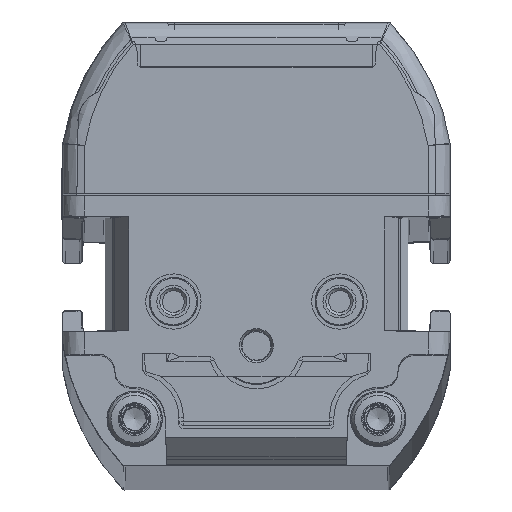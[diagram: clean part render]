
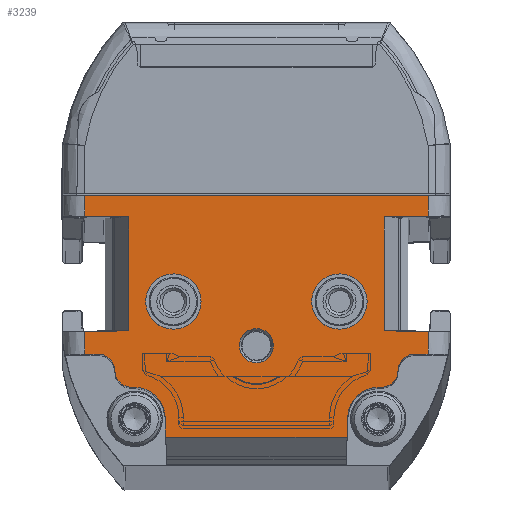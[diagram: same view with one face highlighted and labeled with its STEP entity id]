
A CAD part, top view. The second image highlights one B-rep face of the part: STEP entity #3239.
In plain terms, the highlighted planar face has unit normal (0, 0, 1).
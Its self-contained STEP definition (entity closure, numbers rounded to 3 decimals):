
#1178=FACE_BOUND('',#5343,.T.);
#1179=FACE_BOUND('',#5344,.T.);
#1180=FACE_BOUND('',#5345,.T.);
#1181=FACE_BOUND('',#5346,.T.);
#1900=CIRCLE('',#17502,2.5);
#1901=CIRCLE('',#17504,2.5);
#1902=CIRCLE('',#17506,1.55);
#1905=CIRCLE('',#17576,1.5);
#1906=CIRCLE('',#17577,1.5);
#1907=CIRCLE('',#17578,1.5);
#1908=CIRCLE('',#17579,1.5);
#1909=CIRCLE('',#17580,2.75);
#1910=CIRCLE('',#17581,2.75);
#3239=ADVANCED_FACE('',(#1178,#1179,#1180,#1181),#3754,.T.);
#3754=PLANE('',#17582);
#5343=EDGE_LOOP('',(#9281));
#5344=EDGE_LOOP('',(#9282));
#5345=EDGE_LOOP('',(#9283));
#5346=EDGE_LOOP('',(#9284,#9285,#9286,#9287,#9288,#9289,#9290,#9291,#9292,
#9293,#9294,#9295,#9296,#9297,#9298,#9299,#9300,#9301,#9302,#9303,#9304,
#9305,#9306,#9307,#9308,#9309));
#9281=ORIENTED_EDGE('',*,*,#13579,.T.);
#9282=ORIENTED_EDGE('',*,*,#13578,.F.);
#9283=ORIENTED_EDGE('',*,*,#13577,.F.);
#9284=ORIENTED_EDGE('',*,*,#13699,.F.);
#9285=ORIENTED_EDGE('',*,*,#13700,.T.);
#9286=ORIENTED_EDGE('',*,*,#13701,.T.);
#9287=ORIENTED_EDGE('',*,*,#13702,.T.);
#9288=ORIENTED_EDGE('',*,*,#13630,.T.);
#9289=ORIENTED_EDGE('',*,*,#13576,.T.);
#9290=ORIENTED_EDGE('',*,*,#13573,.T.);
#9291=ORIENTED_EDGE('',*,*,#13572,.T.);
#9292=ORIENTED_EDGE('',*,*,#13698,.T.);
#9293=ORIENTED_EDGE('',*,*,#13703,.F.);
#9294=ORIENTED_EDGE('',*,*,#13704,.F.);
#9295=ORIENTED_EDGE('',*,*,#13705,.F.);
#9296=ORIENTED_EDGE('',*,*,#13692,.T.);
#9297=ORIENTED_EDGE('',*,*,#13568,.F.);
#9298=ORIENTED_EDGE('',*,*,#13564,.T.);
#9299=ORIENTED_EDGE('',*,*,#13563,.F.);
#9300=ORIENTED_EDGE('',*,*,#13603,.T.);
#9301=ORIENTED_EDGE('',*,*,#13706,.F.);
#9302=ORIENTED_EDGE('',*,*,#13707,.T.);
#9303=ORIENTED_EDGE('',*,*,#13708,.T.);
#9304=ORIENTED_EDGE('',*,*,#13709,.F.);
#9305=ORIENTED_EDGE('',*,*,#13710,.F.);
#9306=ORIENTED_EDGE('',*,*,#13711,.F.);
#9307=ORIENTED_EDGE('',*,*,#13611,.T.);
#9308=ORIENTED_EDGE('',*,*,#13712,.F.);
#9309=ORIENTED_EDGE('',*,*,#13713,.F.);
#11499=VERTEX_POINT('',#29891);
#11500=VERTEX_POINT('',#29893);
#11501=VERTEX_POINT('',#29897);
#11502=VERTEX_POINT('',#29901);
#11504=VERTEX_POINT('',#29907);
#11506=VERTEX_POINT('',#29911);
#11507=VERTEX_POINT('',#29915);
#11508=VERTEX_POINT('',#29919);
#11509=VERTEX_POINT('',#29923);
#11510=VERTEX_POINT('',#29926);
#11511=VERTEX_POINT('',#29929);
#11528=VERTEX_POINT('',#30023);
#11533=VERTEX_POINT('',#30037);
#11534=VERTEX_POINT('',#30039);
#11547=VERTEX_POINT('',#30079);
#11581=VERTEX_POINT('',#30332);
#11585=VERTEX_POINT('',#30342);
#11586=VERTEX_POINT('',#30346);
#11587=VERTEX_POINT('',#30347);
#11588=VERTEX_POINT('',#30349);
#11589=VERTEX_POINT('',#30351);
#11590=VERTEX_POINT('',#30354);
#11591=VERTEX_POINT('',#30356);
#11592=VERTEX_POINT('',#30359);
#11593=VERTEX_POINT('',#30361);
#11594=VERTEX_POINT('',#30363);
#11595=VERTEX_POINT('',#30365);
#11596=VERTEX_POINT('',#30367);
#11597=VERTEX_POINT('',#30370);
#13563=EDGE_CURVE('',#11500,#11499,#15088,.T.);
#13564=EDGE_CURVE('',#11501,#11499,#15089,.T.);
#13568=EDGE_CURVE('',#11501,#11502,#15092,.T.);
#13572=EDGE_CURVE('',#11504,#11506,#15095,.T.);
#13573=EDGE_CURVE('',#11507,#11504,#15096,.T.);
#13576=EDGE_CURVE('',#11508,#11507,#15098,.T.);
#13577=EDGE_CURVE('',#11509,#11509,#1900,.T.);
#13578=EDGE_CURVE('',#11510,#11510,#1901,.T.);
#13579=EDGE_CURVE('',#11511,#11511,#1902,.T.);
#13603=EDGE_CURVE('',#11500,#11528,#15113,.T.);
#13611=EDGE_CURVE('',#11533,#11534,#15119,.T.);
#13630=EDGE_CURVE('',#11547,#11508,#15132,.T.);
#13692=EDGE_CURVE('',#11581,#11502,#15175,.T.);
#13698=EDGE_CURVE('',#11506,#11585,#15177,.T.);
#13699=EDGE_CURVE('',#11586,#11587,#15178,.T.);
#13700=EDGE_CURVE('',#11586,#11588,#1905,.T.);
#13701=EDGE_CURVE('',#11588,#11589,#1906,.T.);
#13702=EDGE_CURVE('',#11589,#11547,#15179,.T.);
#13703=EDGE_CURVE('',#11590,#11585,#15180,.T.);
#13704=EDGE_CURVE('',#11591,#11590,#15181,.T.);
#13705=EDGE_CURVE('',#11581,#11591,#15182,.T.);
#13706=EDGE_CURVE('',#11592,#11528,#15183,.T.);
#13707=EDGE_CURVE('',#11592,#11593,#1907,.T.);
#13708=EDGE_CURVE('',#11593,#11594,#1908,.T.);
#13709=EDGE_CURVE('',#11595,#11594,#15184,.T.);
#13710=EDGE_CURVE('',#11596,#11595,#1909,.T.);
#13711=EDGE_CURVE('',#11533,#11596,#15185,.T.);
#13712=EDGE_CURVE('',#11597,#11534,#15186,.T.);
#13713=EDGE_CURVE('',#11587,#11597,#1910,.T.);
#15088=LINE('',#29894,#16251);
#15089=LINE('',#29896,#16252);
#15092=LINE('',#29904,#16255);
#15095=LINE('',#29912,#16258);
#15096=LINE('',#29914,#16259);
#15098=LINE('',#29920,#16261);
#15113=LINE('',#30024,#16276);
#15119=LINE('',#30040,#16282);
#15132=LINE('',#30078,#16295);
#15175=LINE('',#30331,#16338);
#15177=LINE('',#30343,#16340);
#15178=LINE('',#30345,#16341);
#15179=LINE('',#30352,#16342);
#15180=LINE('',#30353,#16343);
#15181=LINE('',#30355,#16344);
#15182=LINE('',#30357,#16345);
#15183=LINE('',#30358,#16346);
#15184=LINE('',#30364,#16347);
#15185=LINE('',#30368,#16348);
#15186=LINE('',#30369,#16349);
#16251=VECTOR('',#20699,1.);
#16252=VECTOR('',#20702,1.);
#16255=VECTOR('',#20709,1.);
#16258=VECTOR('',#20716,1.);
#16259=VECTOR('',#20719,1.);
#16261=VECTOR('',#20725,1.);
#16276=VECTOR('',#20776,1.);
#16282=VECTOR('',#20790,1.);
#16295=VECTOR('',#20829,1.);
#16338=VECTOR('',#20940,1.);
#16340=VECTOR('',#20952,1.);
#16341=VECTOR('',#20955,1.);
#16342=VECTOR('',#20960,1.);
#16343=VECTOR('',#20961,1.);
#16344=VECTOR('',#20962,1.);
#16345=VECTOR('',#20963,1.);
#16346=VECTOR('',#20964,1.);
#16347=VECTOR('',#20969,1.);
#16348=VECTOR('',#20972,1.);
#16349=VECTOR('',#20973,1.);
#17502=AXIS2_PLACEMENT_3D('',#29922,#20728,#20729);
#17504=AXIS2_PLACEMENT_3D('',#29925,#20732,#20733);
#17506=AXIS2_PLACEMENT_3D('',#29928,#20736,#20737);
#17576=AXIS2_PLACEMENT_3D('',#30348,#20956,#20957);
#17577=AXIS2_PLACEMENT_3D('',#30350,#20958,#20959);
#17578=AXIS2_PLACEMENT_3D('',#30360,#20965,#20966);
#17579=AXIS2_PLACEMENT_3D('',#30362,#20967,#20968);
#17580=AXIS2_PLACEMENT_3D('',#30366,#20970,#20971);
#17581=AXIS2_PLACEMENT_3D('',#30371,#20974,#20975);
#17582=AXIS2_PLACEMENT_3D('',#30372,#20976,#20977);
#20699=DIRECTION('',(1.,0.017,0.));
#20702=DIRECTION('',(0.,-1.,0.));
#20709=DIRECTION('',(-1.,0.017,0.));
#20716=DIRECTION('',(1.,0.017,0.));
#20719=DIRECTION('',(0.,1.,0.));
#20725=DIRECTION('',(-1.,0.017,0.));
#20728=DIRECTION('',(0.,0.,1.));
#20729=DIRECTION('',(1.,0.,0.));
#20732=DIRECTION('',(0.,0.,1.));
#20733=DIRECTION('',(1.,0.,0.));
#20736=DIRECTION('',(0.,0.,-1.));
#20737=DIRECTION('',(1.,0.,0.));
#20776=DIRECTION('',(0.,-1.,0.));
#20790=DIRECTION('',(1.,0.,0.));
#20829=DIRECTION('',(0.,1.,0.));
#20940=DIRECTION('',(0.,-1.,0.));
#20952=DIRECTION('',(0.,1.,0.));
#20955=DIRECTION('',(-1.,0.,0.));
#20956=DIRECTION('',(0.,0.,1.));
#20957=DIRECTION('',(1.,0.,0.));
#20958=DIRECTION('',(0.,0.,-1.));
#20959=DIRECTION('',(1.,0.,0.));
#20960=DIRECTION('',(1.,0.,0.));
#20961=DIRECTION('',(1.,-0.017,0.));
#20962=DIRECTION('',(1.,0.,0.));
#20963=DIRECTION('',(1.,0.017,0.));
#20964=DIRECTION('',(-1.,0.,0.));
#20965=DIRECTION('',(0.,0.,-1.));
#20966=DIRECTION('',(1.,0.,0.));
#20967=DIRECTION('',(0.,0.,1.));
#20968=DIRECTION('',(1.,0.,0.));
#20969=DIRECTION('',(-1.,0.,0.));
#20970=DIRECTION('',(0.,0.,1.));
#20971=DIRECTION('',(1.,0.,0.));
#20972=DIRECTION('',(-0.035,0.999,0.));
#20973=DIRECTION('',(-0.035,-0.999,0.));
#20974=DIRECTION('',(0.,0.,1.));
#20975=DIRECTION('',(1.,0.,0.));
#20976=DIRECTION('',(0.,0.,1.));
#20977=DIRECTION('',(1.,0.,0.));
#29891=CARTESIAN_POINT('',(-11.55,12.107,1299.));
#29893=CARTESIAN_POINT('',(-15.5,12.038,1299.));
#29894=CARTESIAN_POINT('',(-17.709,11.999,1299.));
#29896=CARTESIAN_POINT('',(-11.55,0.,1299.));
#29897=CARTESIAN_POINT('',(-11.55,22.393,1299.));
#29901=CARTESIAN_POINT('',(-15.5,22.462,1299.));
#29904=CARTESIAN_POINT('',(-17.107,22.49,1299.));
#29907=CARTESIAN_POINT('',(11.55,22.393,1299.));
#29911=CARTESIAN_POINT('',(15.5,22.462,1299.));
#29912=CARTESIAN_POINT('',(-17.882,21.88,1299.));
#29914=CARTESIAN_POINT('',(11.55,0.,1299.));
#29915=CARTESIAN_POINT('',(11.55,12.107,1299.));
#29919=CARTESIAN_POINT('',(15.5,12.038,1299.));
#29920=CARTESIAN_POINT('',(-17.28,12.61,1299.));
#29922=CARTESIAN_POINT('',(-7.5,14.75,1299.));
#29923=CARTESIAN_POINT('',(-5.,14.75,1299.));
#29925=CARTESIAN_POINT('',(7.5,14.75,1299.));
#29926=CARTESIAN_POINT('',(10.,14.75,1299.));
#29928=CARTESIAN_POINT('',(0.,10.75,1299.));
#29929=CARTESIAN_POINT('',(1.55,10.75,1299.));
#30023=CARTESIAN_POINT('',(-15.5,10.,1299.));
#30024=CARTESIAN_POINT('',(-15.5,0.,1299.));
#30037=CARTESIAN_POINT('',(-8.189,2.5,1299.));
#30039=CARTESIAN_POINT('',(8.189,2.5,1299.));
#30040=CARTESIAN_POINT('',(-17.5,2.5,1299.));
#30078=CARTESIAN_POINT('',(15.5,0.,1299.));
#30079=CARTESIAN_POINT('',(15.5,10.,1299.));
#30331=CARTESIAN_POINT('',(-15.5,0.,1299.));
#30332=CARTESIAN_POINT('',(-15.5,24.317,1299.));
#30342=CARTESIAN_POINT('',(15.5,24.317,1299.));
#30343=CARTESIAN_POINT('',(15.5,0.,1299.));
#30345=CARTESIAN_POINT('',(23.25,7.,1299.));
#30346=CARTESIAN_POINT('',(11.3,7.,1299.));
#30347=CARTESIAN_POINT('',(11.002,7.,1299.));
#30348=CARTESIAN_POINT('',(11.3,8.5,1299.));
#30349=CARTESIAN_POINT('',(12.8,8.5,1299.));
#30350=CARTESIAN_POINT('',(14.3,8.5,1299.));
#30351=CARTESIAN_POINT('',(14.3,10.,1299.));
#30352=CARTESIAN_POINT('',(-17.5,10.,1299.));
#30353=CARTESIAN_POINT('',(-17.066,24.886,1299.));
#30354=CARTESIAN_POINT('',(13.025,24.36,1299.));
#30355=CARTESIAN_POINT('',(-17.5,24.36,1299.));
#30356=CARTESIAN_POINT('',(-13.025,24.36,1299.));
#30357=CARTESIAN_POINT('',(-17.924,24.275,1299.));
#30358=CARTESIAN_POINT('',(-17.5,10.,1299.));
#30359=CARTESIAN_POINT('',(-14.3,10.,1299.));
#30360=CARTESIAN_POINT('',(-14.3,8.5,1299.));
#30361=CARTESIAN_POINT('',(-12.8,8.5,1299.));
#30362=CARTESIAN_POINT('',(-11.3,8.5,1299.));
#30363=CARTESIAN_POINT('',(-11.3,7.,1299.));
#30364=CARTESIAN_POINT('',(-11.,7.,1299.));
#30365=CARTESIAN_POINT('',(-11.002,7.,1299.));
#30366=CARTESIAN_POINT('',(-11.002,4.25,1299.));
#30367=CARTESIAN_POINT('',(-8.253,4.346,1299.));
#30368=CARTESIAN_POINT('',(-8.25,4.25,1299.));
#30369=CARTESIAN_POINT('',(8.25,4.25,1299.));
#30370=CARTESIAN_POINT('',(8.253,4.346,1299.));
#30371=CARTESIAN_POINT('',(11.002,4.25,1299.));
#30372=CARTESIAN_POINT('',(-17.5,0.,1299.));
